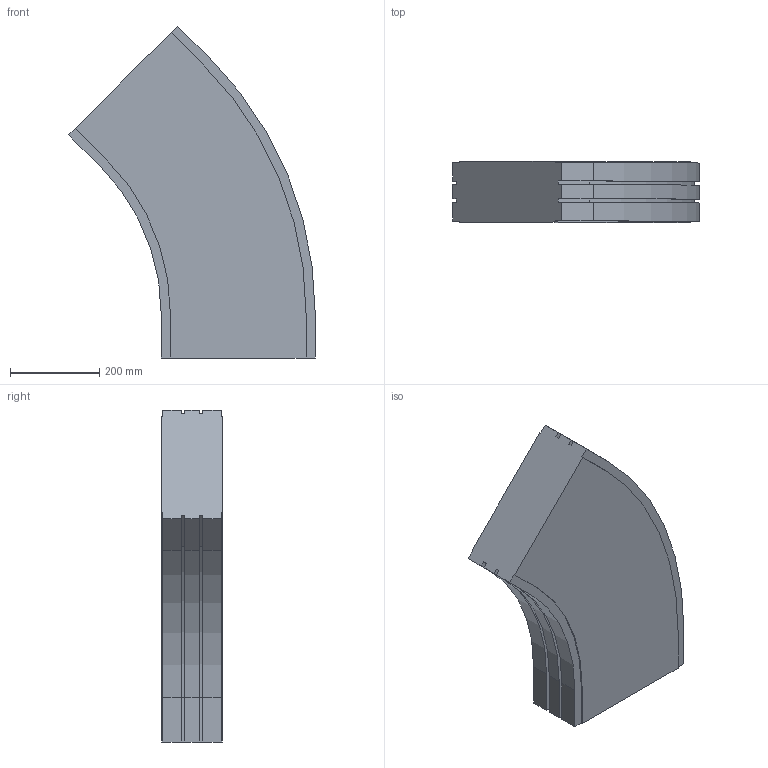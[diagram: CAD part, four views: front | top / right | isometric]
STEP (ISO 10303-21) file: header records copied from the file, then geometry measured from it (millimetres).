
FILE_DESCRIPTION (( 'STEP AP214' ), '1' );
FILE_NAME ('02.150H45.350.N FS-MTC-150 Bocht horizontaal 45°.STEP', '2013-03-21T10:44:24', ( 'Gebruiker' ), ( '' ), 'SwSTEP 2.0', 'SolidWorks 2012', '' );
FILE_SCHEMA (( 'AUTOMOTIVE_DESIGN' ));
Length unit declared in the file: millimetre
Products named in the file (1): 02.150H45.350.N FS-MTC-150 Bocht horizontaal 45°
Bounding box: 553.49 x 136 x 745.59 mm (x, y, z)
Volume: 32656585.6 mm3; surface area: 832144.9 mm2
Topology: 1 solids, 1 shells, 58 faces, 168 edges, 112 vertices
Faces by surface type: plane 44, cylinder 14
Entity records: 1934 total; most frequent: CARTESIAN_POINT 339, ORIENTED_EDGE 336, DIRECTION 314, EDGE_CURVE 168, LINE 140, VECTOR 140, VERTEX_POINT 112, AXIS2_PLACEMENT_3D 87
